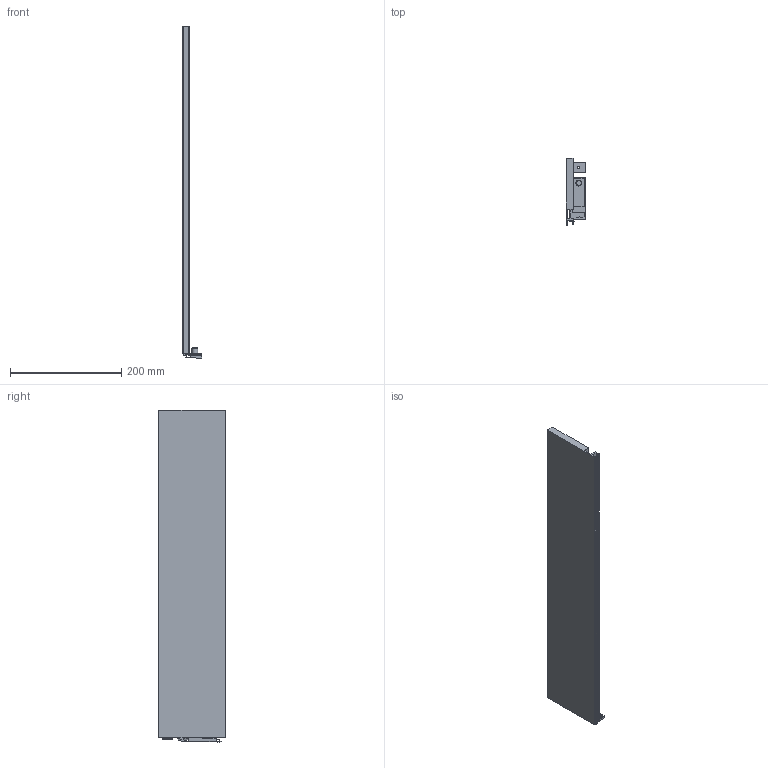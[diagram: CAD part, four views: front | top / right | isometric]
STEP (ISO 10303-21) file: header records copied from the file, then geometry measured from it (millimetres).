
FILE_DESCRIPTION (( 'STEP AP214' ), '1' );
FILE_NAME ('Vionaro_Alu-Zarge_H121_NL600_LI.STEP', '2014-08-18T11:22:02', ( '' ), ( '' ), 'SwSTEP 2.0', 'SolidWorks 2013', '' );
FILE_SCHEMA (( 'AUTOMOTIVE_DESIGN' ));
Length unit declared in the file: millimetre
Products named in the file (1): Vionaro_Alu-Zarge_H121_NL600_LI
Bounding box: 35.61 x 121 x 597.9 mm (x, y, z)
Volume: 781256.1 mm3; surface area: 191545.6 mm2
Topology: 1 solids, 1 shells, 112 faces, 299 edges, 196 vertices
Faces by surface type: plane 88, cylinder 20, cone 4
Entity records: 3491 total; most frequent: CARTESIAN_POINT 614, ORIENTED_EDGE 598, DIRECTION 569, EDGE_CURVE 299, LINE 251, VECTOR 251, VERTEX_POINT 196, AXIS2_PLACEMENT_3D 159
